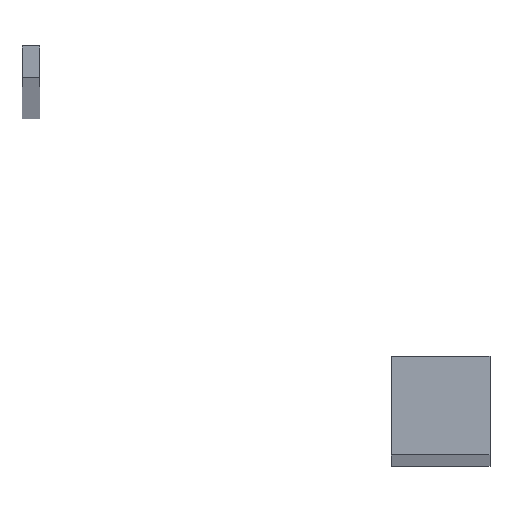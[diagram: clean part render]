
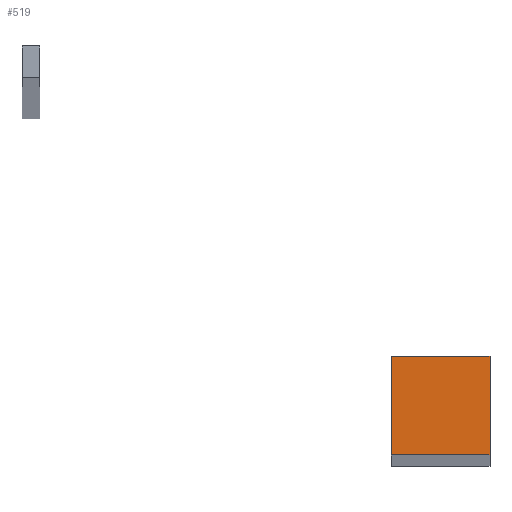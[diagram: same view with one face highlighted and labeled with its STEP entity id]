
A CAD part, top view. The second image highlights one B-rep face of the part: STEP entity #519.
In plain terms, the highlighted planar face has unit normal (0, 0, 1).
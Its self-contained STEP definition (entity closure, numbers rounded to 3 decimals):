
#71 = DIRECTION ( 'NONE',  ( 1., 0., 0. ) ) ;
#96 = CARTESIAN_POINT ( 'NONE',  ( -12.5, 12.5, 1600. ) ) ;
#102 = VERTEX_POINT ( 'NONE', #237 ) ;
#119 = CARTESIAN_POINT ( 'NONE',  ( -12.5, -12.5, 1600. ) ) ;
#126 = VERTEX_POINT ( 'NONE', #137 ) ;
#137 = CARTESIAN_POINT ( 'NONE',  ( 12.5, -12.5, 1600. ) ) ;
#149 = LINE ( 'NONE', #195, #274 ) ;
#169 = EDGE_LOOP ( 'NONE', ( #210, #465, #473, #731 ) ) ;
#195 = CARTESIAN_POINT ( 'NONE',  ( 12.5, -12.5, 1600. ) ) ;
#210 = ORIENTED_EDGE ( 'NONE', *, *, #641, .T. ) ;
#237 = CARTESIAN_POINT ( 'NONE',  ( -12.5, -12.5, 1600. ) ) ;
#255 = CARTESIAN_POINT ( 'NONE',  ( -12.5, 12.5, 1600. ) ) ;
#274 = VECTOR ( 'NONE', #559, 1000. ) ;
#330 = FACE_OUTER_BOUND ( 'NONE', #169, .T. ) ;
#351 = EDGE_CURVE ( 'NONE', #102, #391, #408, .T. ) ;
#374 = PLANE ( 'NONE',  #467 ) ;
#391 = VERTEX_POINT ( 'NONE', #255 ) ;
#408 = LINE ( 'NONE', #119, #750 ) ;
#465 = ORIENTED_EDGE ( 'NONE', *, *, #711, .T. ) ;
#467 = AXIS2_PLACEMENT_3D ( 'NONE', #573, #580, #71 ) ;
#473 = ORIENTED_EDGE ( 'NONE', *, *, #492, .F. ) ;
#484 = VECTOR ( 'NONE', #714, 1000. ) ;
#492 = EDGE_CURVE ( 'NONE', #391, #517, #614, .T. ) ;
#517 = VERTEX_POINT ( 'NONE', #751 ) ;
#519 = ADVANCED_FACE ( 'NONE', ( #330 ), #374, .T. ) ;
#550 = VECTOR ( 'NONE', #563, 1000. ) ;
#559 = DIRECTION ( 'NONE',  ( 0., 1., 0. ) ) ;
#563 = DIRECTION ( 'NONE',  ( 1., 0., 0. ) ) ;
#568 = DIRECTION ( 'NONE',  ( 0., 1., 0. ) ) ;
#573 = CARTESIAN_POINT ( 'NONE',  ( 0., 0., 1600. ) ) ;
#580 = DIRECTION ( 'NONE',  ( 0., 0., 1. ) ) ;
#614 = LINE ( 'NONE', #96, #484 ) ;
#641 = EDGE_CURVE ( 'NONE', #102, #126, #682, .T. ) ;
#682 = LINE ( 'NONE', #736, #550 ) ;
#711 = EDGE_CURVE ( 'NONE', #126, #517, #149, .T. ) ;
#714 = DIRECTION ( 'NONE',  ( 1., 0., 0. ) ) ;
#731 = ORIENTED_EDGE ( 'NONE', *, *, #351, .F. ) ;
#736 = CARTESIAN_POINT ( 'NONE',  ( -12.5, -12.5, 1600. ) ) ;
#750 = VECTOR ( 'NONE', #568, 1000. ) ;
#751 = CARTESIAN_POINT ( 'NONE',  ( 12.5, 12.5, 1600. ) ) ;
